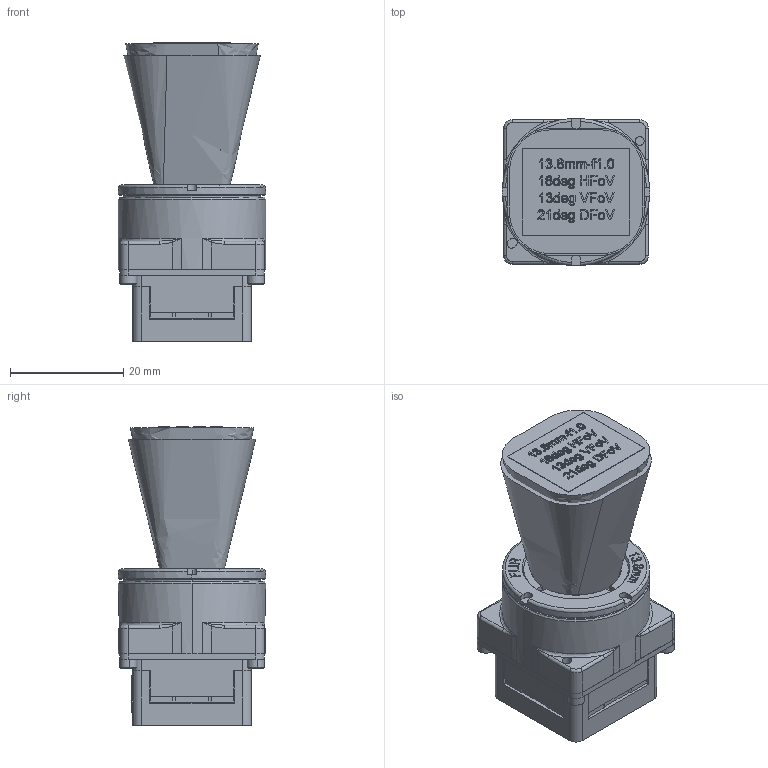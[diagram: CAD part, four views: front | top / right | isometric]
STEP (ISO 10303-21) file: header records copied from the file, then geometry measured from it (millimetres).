
FILE_DESCRIPTION (( 'STEP AP214' ), '1' );
FILE_NAME ('Boson 320, 13.8mm-f1.0, 16deg HFoV 9Hz.STEP', '2017-10-09T22:52:03', ( '' ), ( '' ), 'SwSTEP 2.0', 'SolidWorks 2017', '' );
FILE_SCHEMA (( 'AUTOMOTIVE_DESIGN' ));
Length unit declared in the file: millimetre
Products named in the file (11): Optical Area 13.8mm-f1.0, Boson 320; Lens Assy, 13.8mm-f1.0; Screw SHC, M-1.6 x 0.35 x 4; Lens Holder, M24x0.5-Boson 320; Adapter Plate, M24 Lens Interface; Screw FLPH M1.6x0.35 x 6mm L; PCBA Boson Main; Boson Frame, Main Board; Sensor Module, Boson 320; Boson 320, 13.8mm-f1.0, 16deg HFoV 9Hz; Label, Boson Camera 9Hz
Assembly tree (15 placements, depth 2):
  Boson 320, 13.8mm-f1.0, 16deg HFoV 9Hz
    Sensor Module, Boson 320
    Boson Frame, Main Board
    PCBA Boson Main
    Screw FLPH M1.6x0.35 x 6mm L  x3
    Adapter Plate, M24 Lens Interface
    Lens Holder, M24x0.5-Boson 320
    Screw SHC, M-1.6 x 0.35 x 4  x4
    Lens Assy, 13.8mm-f1.0
    Optical Area 13.8mm-f1.0, Boson 320
    Label, Boson Camera 9Hz
Bounding box: 26 x 26 x 52.71 mm (x, y, z)
Volume: 22220.8 mm3; surface area: 17003.4 mm2
Topology: 20 solids, 20 shells, 3835 faces, 10314 edges, 6726 vertices
Faces by surface type: plane 2366, cylinder 689, bspline 494, cone 162, torus 124
Entity records: 177880 total; most frequent: CARTESIAN_POINT 49005, ORIENTED_EDGE 19934, DIRECTION 17023, EDGE_CURVE 9967, VECTOR 7119, LINE 7119, VERTEX_POINT 6549, AXIS2_PLACEMENT_3D 4952
